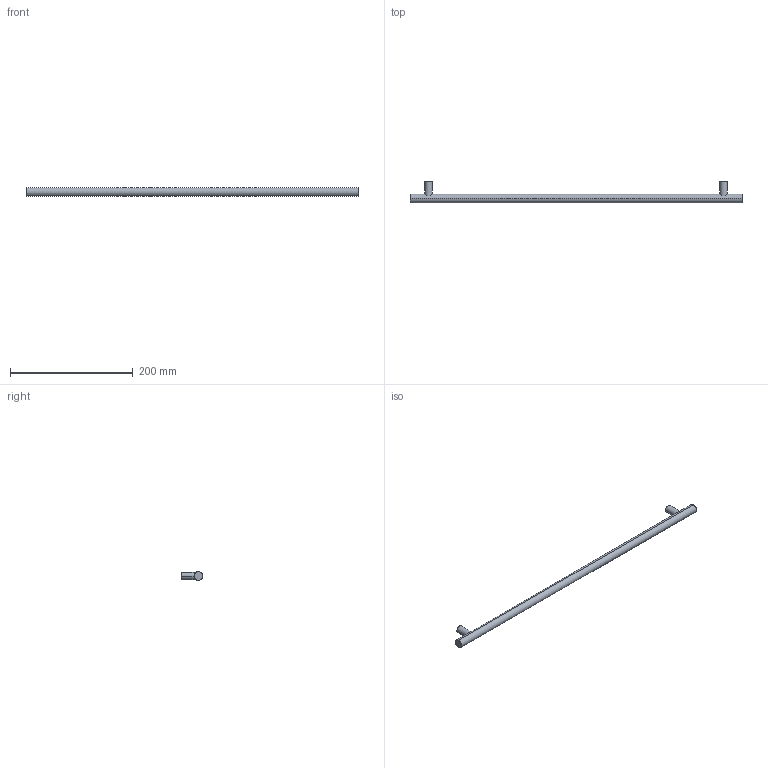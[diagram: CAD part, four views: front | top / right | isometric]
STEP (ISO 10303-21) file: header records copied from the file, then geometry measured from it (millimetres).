
FILE_DESCRIPTION( ( '' ), '1' );
FILE_NAME( 'D:/1.AUTOCAD EXPORT/Group 10/sheet_10_1/9071111.stp', '2013-10-21T10:26:02', ( '' ), ( '' ), ' ', ' ', ' ' );
FILE_SCHEMA( ( 'automotive_design' ) );
Length unit declared in the file: millimetre
Products named in the file (1): 1
Bounding box: 540 x 35 x 14 mm (x, y, z)
Volume: 87738.6 mm3; surface area: 26030.2 mm2
Topology: 1 solids, 1 shells, 16 faces, 32 edges, 22 vertices
Faces by surface type: cylinder 10, plane 6
Entity records: 972 total; most frequent: CARTESIAN_POINT 205, DIRECTION 76, STYLED_ITEM 71, PRESENTATION_STYLE_ASSIGNMENT 71, COLOUR_RGB 71, ORIENTED_EDGE 64, AXIS2_PLACEMENT_3D 33, EDGE_CURVE 32
